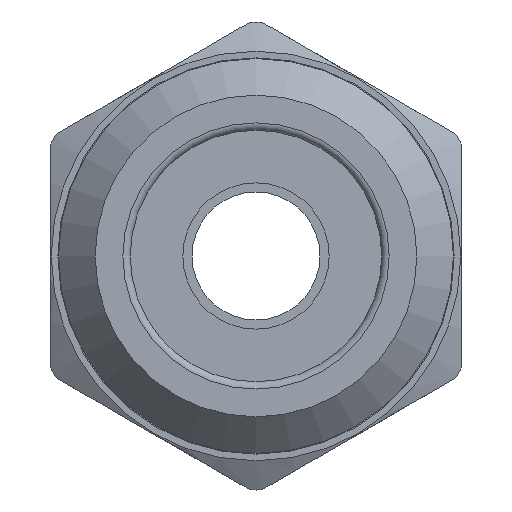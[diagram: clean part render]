
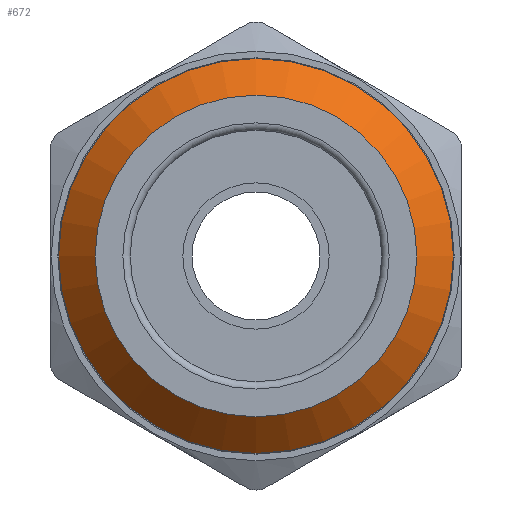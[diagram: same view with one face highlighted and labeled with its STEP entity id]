
A CAD part, front view. The second image highlights one B-rep face of the part: STEP entity #672.
In plain terms, the highlighted conical face has half-angle 45 degrees and reference radius 6.223 mm.
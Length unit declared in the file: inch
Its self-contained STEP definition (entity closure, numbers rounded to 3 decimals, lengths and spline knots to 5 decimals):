
#89=FACE_OUTER_BOUND('',#133,.T.);
#133=EDGE_LOOP('',(#527,#528,#529,#530,#531));
#168=LINE('',#1135,#195);
#195=VECTOR('',#923,0.245);
#243=CIRCLE('',#755,0.22);
#246=CIRCLE('',#760,0.27);
#247=CIRCLE('',#761,0.27);
#303=VERTEX_POINT('',#1125);
#306=VERTEX_POINT('',#1134);
#307=VERTEX_POINT('',#1136);
#384=EDGE_CURVE('',#303,#303,#243,.T.);
#388=EDGE_CURVE('',#303,#306,#168,.T.);
#389=EDGE_CURVE('',#306,#307,#246,.T.);
#390=EDGE_CURVE('',#307,#306,#247,.T.);
#527=ORIENTED_EDGE('',*,*,#384,.T.);
#528=ORIENTED_EDGE('',*,*,#388,.T.);
#529=ORIENTED_EDGE('',*,*,#389,.T.);
#530=ORIENTED_EDGE('',*,*,#390,.T.);
#531=ORIENTED_EDGE('',*,*,#388,.F.);
#653=CONICAL_SURFACE('',#759,0.245,0.785);
#672=ADVANCED_FACE('',(#89),#653,.T.);
#755=AXIS2_PLACEMENT_3D('',#1126,#912,#913);
#759=AXIS2_PLACEMENT_3D('',#1133,#921,#922);
#760=AXIS2_PLACEMENT_3D('',#1137,#924,#925);
#761=AXIS2_PLACEMENT_3D('',#1138,#926,#927);
#912=DIRECTION('center_axis',(0.,1.,0.));
#913=DIRECTION('ref_axis',(0.,0.,1.));
#921=DIRECTION('center_axis',(0.,1.,0.));
#922=DIRECTION('ref_axis',(0.,0.,1.));
#923=DIRECTION('',(0.,0.707,-0.707));
#924=DIRECTION('center_axis',(0.,-1.,0.));
#925=DIRECTION('ref_axis',(0.,0.,1.));
#926=DIRECTION('center_axis',(0.,-1.,0.));
#927=DIRECTION('ref_axis',(0.,0.,1.));
#1125=CARTESIAN_POINT('',(0.,-0.785,-0.22));
#1126=CARTESIAN_POINT('Origin',(0.,-0.785,0.));
#1133=CARTESIAN_POINT('Origin',(0.,-0.76,0.));
#1134=CARTESIAN_POINT('',(0.,-0.735,-0.27));
#1135=CARTESIAN_POINT('',(0.,-0.76,-0.245));
#1136=CARTESIAN_POINT('',(0.,-0.735,0.27));
#1137=CARTESIAN_POINT('Origin',(0.,-0.735,0.));
#1138=CARTESIAN_POINT('Origin',(0.,-0.735,0.));
